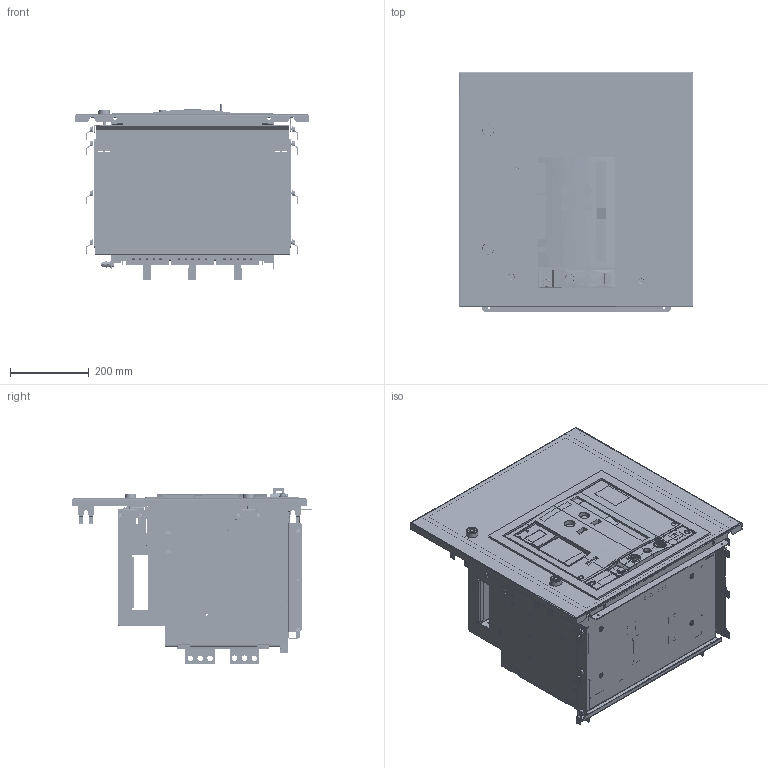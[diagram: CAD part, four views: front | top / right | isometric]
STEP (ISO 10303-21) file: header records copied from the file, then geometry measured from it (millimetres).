
FILE_DESCRIPTION(('CAx-IF Rec.Pracs.---Model Styling and Organization---1.2---2011-12-15','CAx-IF Rec.Pracs.---Geometric and Assembly Validation Properties---4.1---2014-06-16','CAx-IF Rec.Pracs.---PMI Polyline Presentation---2.0---2013-05-24'),'2;1');
FILE_NAME('R5PKEB7V61525.stp','2021-07-29T02:33:15+03:00',(''),(''),'STEP Interface 4.4 by CT CoreTechnologie','3D_Evolution4.4 by CT CoreTechnologie','');
FILE_SCHEMA(('AUTOMOTIVE_DESIGN { 1 0 10303 214 1 1 1 1 }'));
Length unit declared in the file: millimetre
Products named in the file (1): R5PKEB7V61525
Bounding box: 594 x 607.5 x 446.6 mm (x, y, z)
Surface area: 6093192.5 mm2 (no closed solid volume)
Topology: 0 solids, 126 shells, 6974 faces, 19796 edges, 12954 vertices
Faces by surface type: plane 4206, cylinder 2275, bspline 493
Entity records: 237476 total; most frequent: CARTESIAN_POINT 53291, ORIENTED_EDGE 39376, DIRECTION 37476, EDGE_CURVE 19701, VECTOR 14154, LINE 14154, VERTEX_POINT 12976, AXIS2_PLACEMENT_3D 11661
